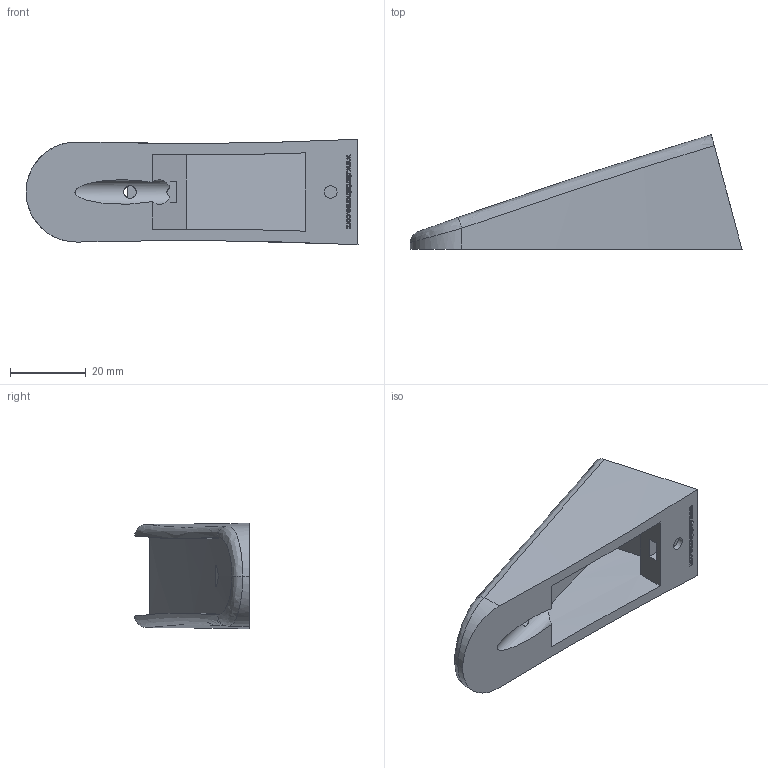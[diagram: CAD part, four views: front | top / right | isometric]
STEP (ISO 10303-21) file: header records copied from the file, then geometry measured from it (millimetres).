
FILE_DESCRIPTION(/* description */ (''),/* implementation_level */ '2;1');
FILE_NAME(/* name */ 'C:/Users/danie/Dropbox/OpenRC Formula 1 STL files/Dual Extrusion Files/Dual_Extr_Noser_Lower.stp',/* time_stamp */ '2016-05-30T23:06:30+02:00',/* author */ (''),/* organization */ (''),/* preprocessor_version */ 'ST-DEVELOPER v16.5',/* originating_system */ 'Autodesk Translation Framework v5.0.0.3310',/* authorisation */ '');
FILE_SCHEMA (('AUTOMOTIVE_DESIGN { 1 0 10303 214 3 1 1 }'));
Length unit declared in the file: centimetre
Products named in the file (1): Nose Lower
Bounding box: 87.58 x 30.24 x 27.8 mm (x, y, z)
Volume: 18003 mm3; surface area: 11317.5 mm2
Topology: 1 solids, 1 shells, 878 faces, 2423 edges, 1613 vertices
Faces by surface type: bspline 522, plane 335, cylinder 20, cone 1
Full cylindrical faces by diameter (mm): 1.85 x1, 3.3 x3
Entity records: 32964 total; most frequent: CARTESIAN_POINT 14151, ORIENTED_EDGE 4830, EDGE_CURVE 2415, DIRECTION 2115, VERTEX_POINT 1610, LINE 1323, VECTOR 1323, B_SPLINE_CURVE_WITH_KNOTS 1053
